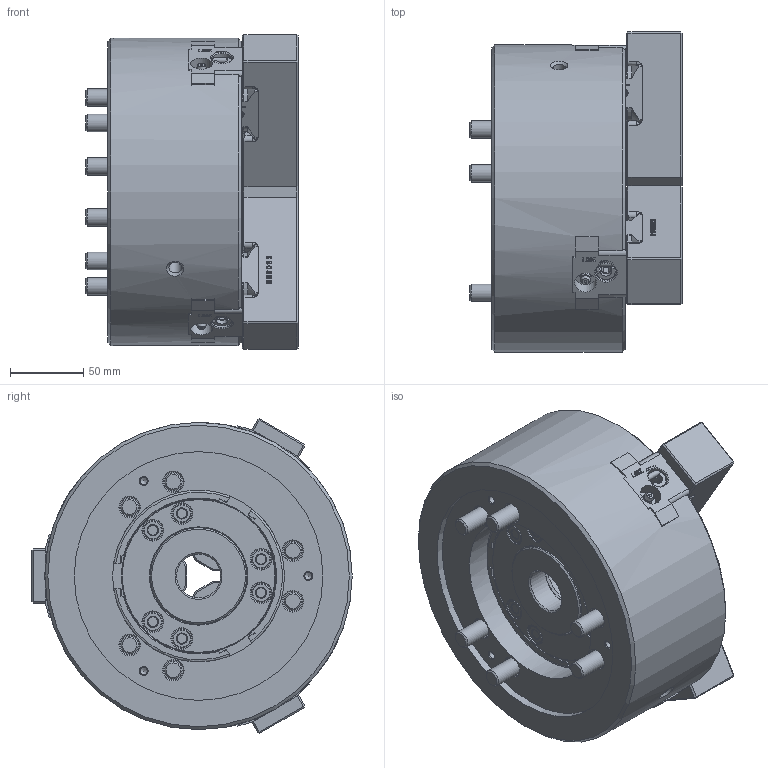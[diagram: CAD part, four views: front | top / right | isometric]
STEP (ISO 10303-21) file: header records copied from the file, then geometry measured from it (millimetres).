
FILE_DESCRIPTION (( 'STEP AP214' ), '1' );
FILE_NAME ('DT1_QB308_OUTSIDE_VIEW_UC.STEP', '2024-05-16T00:32:18', ( '' ), ( '' ), 'SwSTEP 2.0', 'SolidWorks 2022', '' );
FILE_SCHEMA (( 'AUTOMOTIVE_DESIGN' ));
Length unit declared in the file: millimetre
Products named in the file (7): Part1^DT1_QB308_ﾃﾞﾌｫﾙﾄ; DT1_QB308_OUTSIDE_VIEW_UC; DT1_QB308_M5x10^DT1_QB308_ﾃﾞﾌｫﾙﾄ; DT1_QB308_M12x90^DT1_QB308_ﾃﾞﾌｫﾙﾄ; DT1_QB308_SOFTJAW^DT1_QB308_ﾃﾞﾌｫﾙﾄ; DT1_QB308_COVER^DT1_QB308_ﾃﾞﾌｫﾙﾄ; DT1_QB308_DRAWNUT^DT1_QB308_ﾃﾞﾌｫﾙﾄ
Assembly tree (15 placements, depth 2):
  DT1_QB308_OUTSIDE_VIEW_UC
    DT1_QB308_SOFTJAW^DT1_QB308_ﾃﾞﾌｫﾙﾄ  x3
    DT1_QB308_DRAWNUT^DT1_QB308_ﾃﾞﾌｫﾙﾄ
    DT1_QB308_COVER^DT1_QB308_ﾃﾞﾌｫﾙﾄ
    DT1_QB308_M5x10^DT1_QB308_ﾃﾞﾌｫﾙﾄ  x3
    DT1_QB308_M12x90^DT1_QB308_ﾃﾞﾌｫﾙﾄ  x6
    Part1^DT1_QB308_ﾃﾞﾌｫﾙﾄ
Bounding box: 145 x 219 x 214.95 mm (x, y, z)
Volume: 3140843.1 mm3; surface area: 313664.6 mm2
Topology: 15 solids, 15 shells, 2429 faces, 6295 edges, 4082 vertices
Faces by surface type: plane 1242, bspline 646, cylinder 252, cone 250, torus 36, sphere 3
Full cylindrical faces by diameter (mm): 2 x3, 4 x3, 4.2 x12, 5 x6, 5.5 x3, 6 x6, 8 x6, 8.5 x2, 9.5 x3, 10 x3, 12 x6, 13 x6, 13.5 x6, 13.8 x3, 14 x9, 14.2 x3, 15 x3, 18 x6, 18.27 x6, 20 x6, 30 x1, 52 x1, 56 x2, 61 x1, 64.8 x2, 66 x2, 72 x2, 105.2 x1, 117.5 x1, 170 x1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
Entity records: 72676 total; most frequent: CARTESIAN_POINT 31709, ORIENTED_EDGE 9018, DIRECTION 6818, EDGE_CURVE 4509, VERTEX_POINT 3032, VECTOR 2408, LINE 2408, EDGE_LOOP 2223
